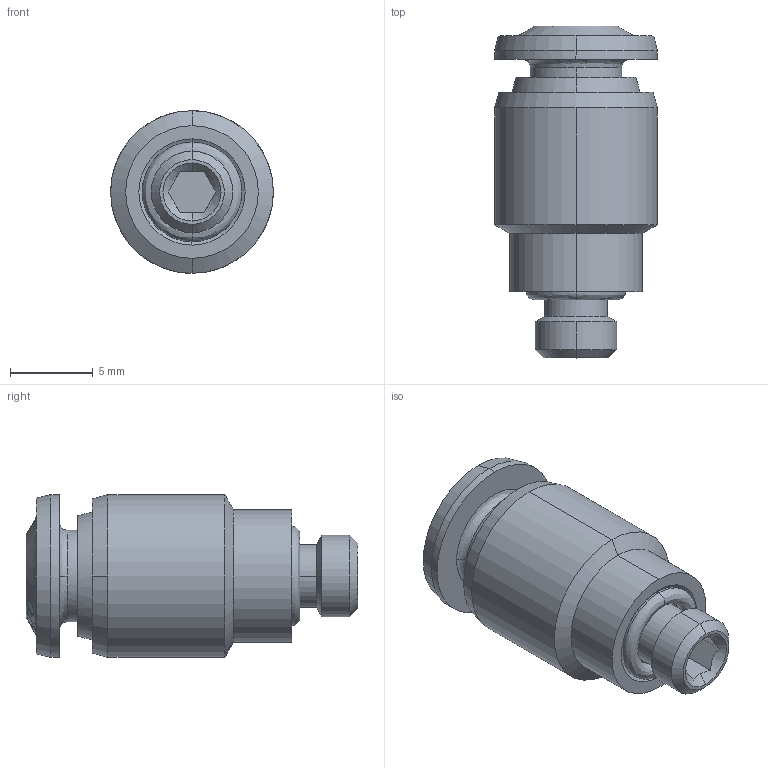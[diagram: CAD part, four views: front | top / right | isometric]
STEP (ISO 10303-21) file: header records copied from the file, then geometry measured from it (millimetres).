
FILE_DESCRIPTION (( 'STEP AP203' ), '1' );
FILE_NAME ('5001000001A.STEP', '2016-12-20T10:45:47', ( 'ST01' ), ( '' ), 'SwSTEP 2.0', 'SolidWorks 2016', '' );
FILE_SCHEMA (( 'CONFIG_CONTROL_DESIGN' ));
Length unit declared in the file: millimetre
Products named in the file (1): 5001000001A
Bounding box: 9.8 x 20 x 9.8 mm (x, y, z)
Surface area: 861.3 mm2 (no closed solid volume)
Topology: 0 solids, 2 shells, 183 faces, 464 edges, 300 vertices
Faces by surface type: bspline 114, cone 40, plane 15, cylinder 14
Entity records: 12293 total; most frequent: CARTESIAN_POINT 8593, ORIENTED_EDGE 928, EDGE_CURVE 464, DIRECTION 420, VERTEX_POINT 300, B_SPLINE_CURVE_WITH_KNOTS 240, EDGE_LOOP 200, ADVANCED_FACE 183
